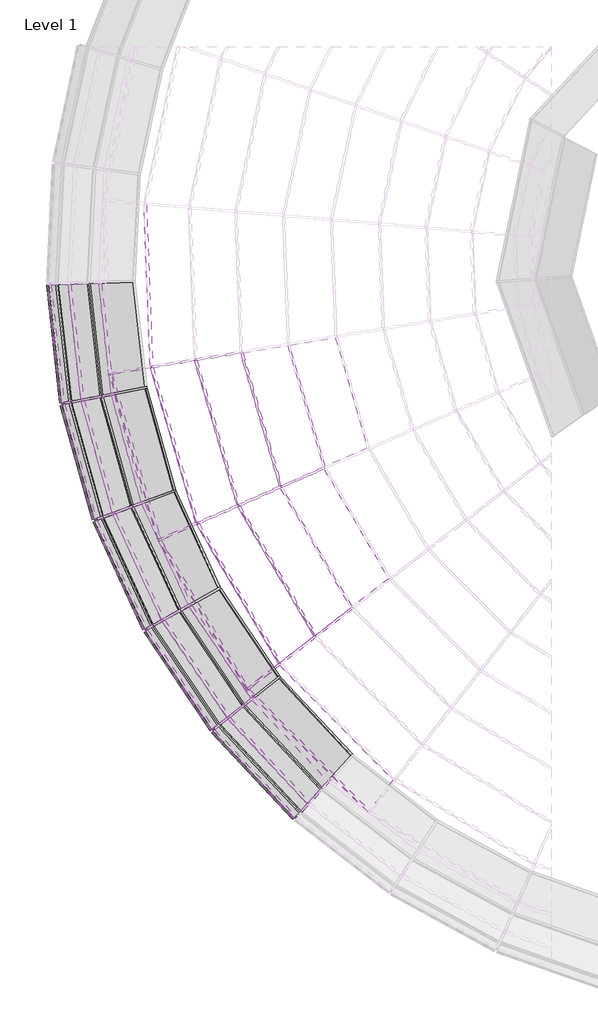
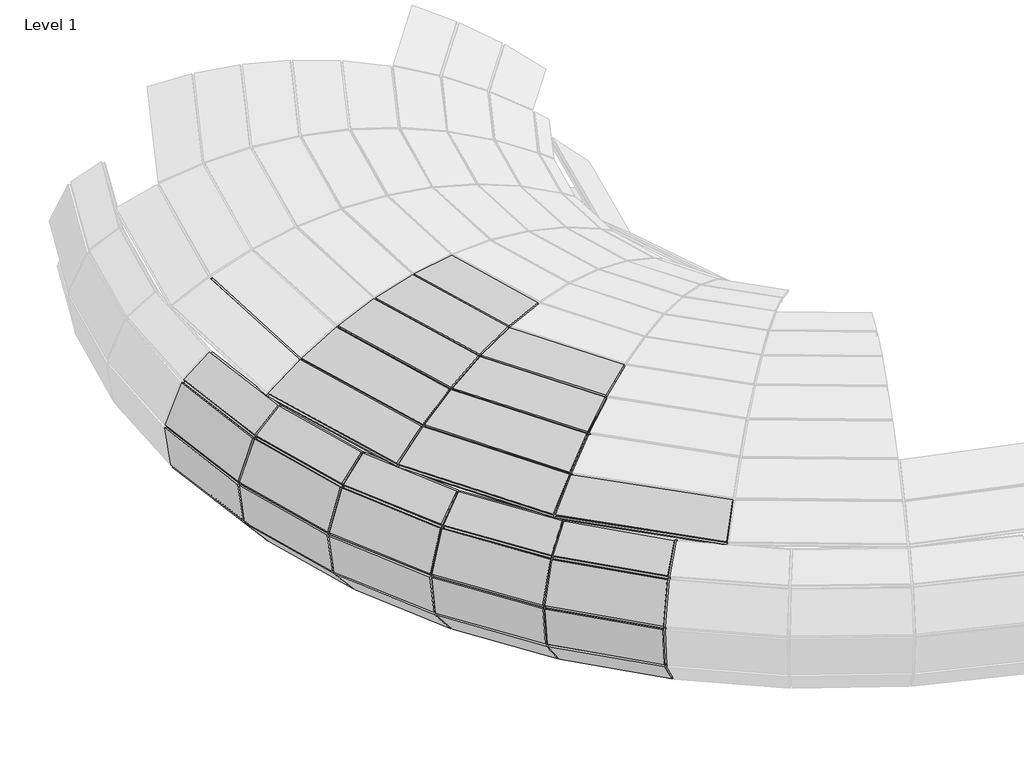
# One storey, part 1 of 23: 71 members, 35 plates.
"""IFC4 building model written with IfcOpenShell, lengths in millimetres."""

from ifc_helpers import new_model, si_unit, origin, place, context, project, spatial, transform, mapped, element, save
from components import member_d6b8231b, member_8c9da58c, member_391bee44, member_01ebdf2a, member_0cd36c09, member_e4cc2466, member_6c4aaba8, member_0ea93e7c, member_12c77cbe, member_af15374c, member_9c203333, member_86c07ba8, member_0e8a41c0, member_f532ae18, member_ff5bcfe9, member_5080b2ef, system_panel_glazed_a6d149b5, system_panel_glazed_185472ef, system_panel_glazed_d90a1b68, system_panel_glazed_7d733e69, system_panel_glazed_1f33159c, system_panel_glazed_020edd5b, system_panel_glazed_973a940c, system_panel_glazed_7e9fb579, system_panel_glazed_aab04364, system_panel_glazed_9094d4f4

model = new_model("IFC4")

# Units and contexts
model_context = context("Model", 3, world=origin())
ifc_project = project(units=[si_unit("LENGTHUNIT", "METRE", prefix="MILLI")], contexts=[model_context])

# Site, building, storey
site = spatial("IfcSite", under=ifc_project)
building = spatial("IfcBuilding", under=site)
storey = spatial("IfcBuildingStorey", under=building, Name="Level 1", Elevation=0.0)

# Members
placement = place(None, origin())
member_shape = member_d6b8231b(model_context)
element("IfcMember", 1, ObjectType="Rectangular Mullion : 1\" Square", at=placement, inside=storey, context=model_context, shape_type="MappedRepresentation", body=[
    mapped(member_shape, transform((-16531.8687259, -6612.3483138, 0.0), x_axis=(0.6225945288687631, -0.7825446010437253, 0.0), y_axis=(-0.21934543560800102, -0.17451180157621, -0.9599131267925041), z_axis=(0.7511748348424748, 0.5976366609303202, -0.28029767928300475))),
])
element("IfcMember", 2, ObjectType="Rectangular Mullion : 1\" Square", at=placement, inside=storey, context=model_context, shape_type="MappedRepresentation", body=[
    mapped(member_shape, transform((-17287.145007, -5489.0713699, 0.0), x_axis=(0.4897912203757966, -0.8718397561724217, 0.0), y_axis=(-0.24437466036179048, -0.1372873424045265, -0.959913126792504), z_axis=(0.8368904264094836, 0.4701570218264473, -0.2802976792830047))),
])
element("IfcMember", 3, ObjectType="Rectangular Mullion : 1\" Square", at=placement, inside=storey, context=model_context, shape_type="MappedRepresentation", body=[
    mapped(member_shape, transform((-17853.5656207, -4259.6971217, 0.0), x_axis=(0.34444419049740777, -0.9388067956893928, 0.0), y_axis=(-0.2631453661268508, -0.0965469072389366, -0.959913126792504), z_axis=(0.9011729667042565, 0.33063649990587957, -0.28029767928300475))),
])
element("IfcMember", 4, ObjectType="Rectangular Mullion : 1\" Square", at=placement, inside=storey, context=model_context, shape_type="MappedRepresentation", body=[
    mapped(member_shape, transform((-18216.6243404, -2955.7102662, 0.0), x_axis=(0.19027582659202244, -0.9817306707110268, 0.0), y_axis=(-0.2751768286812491, -0.05333387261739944, -0.9599131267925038), z_axis=(0.9423761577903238, 0.18264826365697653, -0.2802976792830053))),
])
member_2_shape = member_8c9da58c(model_context)
element("IfcMember", 5, ObjectType="Rectangular Mullion : 1\" Square", at=placement, inside=storey, context=model_context, shape_type="MappedRepresentation", body=[
    mapped(member_2_shape, transform((-18791.0968462, -3067.0526477, 170.8694653), x_axis=(0.19027582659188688, -0.9817306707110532, 0.0), y_axis=(-0.7390514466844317, -0.14324053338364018, -0.658243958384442), z_axis=(0.6462182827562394, 0.12524791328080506, -0.752804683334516))),
])
element("IfcMember", 6, ObjectType="Rectangular Mullion : 1\" Square", at=placement, inside=storey, context=model_context, shape_type="MappedRepresentation", body=[
    mapped(member_2_shape, transform((-18402.9206612, -4461.2531321, 170.8694653), x_axis=(0.34444419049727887, -0.9388067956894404, 0.0), y_axis=(-0.706738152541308, -0.2592991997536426, -0.6582439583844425), z_axis=(0.6179639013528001, 0.22672830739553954, -0.7528046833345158))),
])
element("IfcMember", 7, ObjectType="Rectangular Mullion : 1\" Square", at=placement, inside=storey, context=model_context, shape_type="MappedRepresentation", body=[
    mapped(member_2_shape, transform((-17797.313411, -5775.6790904, 170.8694653), x_axis=(0.48979122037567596, -0.8718397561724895, 0.0), y_axis=(-0.656325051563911, -0.3687171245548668, -0.6582439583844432), z_axis=(0.5738832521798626, 0.3224021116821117, -0.7528046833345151))),
])
element("IfcMember", 8, ObjectType="Rectangular Mullion : 1\" Square", at=placement, inside=storey, context=model_context, shape_type="MappedRepresentation", body=[
    mapped(member_2_shape, transform((-16989.7849053, -6976.6676223, 170.8694653), x_axis=(0.6225945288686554, -0.7825446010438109, 0.0), y_axis=(-0.5891032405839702, -0.46869207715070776, -0.6582439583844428), z_axis=(0.515105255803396, 0.40981908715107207, -0.7528046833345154))),
])
element("IfcMember", 9, ObjectType="Rectangular Mullion : 1\" Square", at=placement, inside=storey, context=model_context, shape_type="MappedRepresentation", body=[
    mapped(member_2_shape, transform((-16001.0162264, -8033.460999, 170.8694653), x_axis=(0.7394529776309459, -0.6732082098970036, 0.0), y_axis=(-0.5067942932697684, -0.556663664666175, -0.658243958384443), z_axis=(0.44313523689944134, 0.486740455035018, -0.7528046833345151))),
])
element("IfcMember", 10, ObjectType="Rectangular Mullion : 1\" Square", at=placement, inside=storey, context=model_context, shape_type="MappedRepresentation", body=[
    mapped(member_2_shape, transform((-19185.0315114, -3143.4037756, 629.7792003), x_axis=(0.19027582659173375, -0.9817306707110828, 0.0), y_axis=(-0.9706664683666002, -0.18813139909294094, -0.1497103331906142), z_axis=(0.1469752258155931, 0.028486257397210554, -0.9887299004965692))),
])
element("IfcMember", 11, ObjectType="Rectangular Mullion : 1\" Square", at=placement, inside=storey, context=model_context, shape_type="MappedRepresentation", body=[
    mapped(member_2_shape, transform((-18779.6314555, -4599.4667083, 629.7792003), x_axis=(0.3444441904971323, -0.9388067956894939, 0.0), y_axis=(-0.9282263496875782, -0.34056227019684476, -0.1497103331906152), z_axis=(0.14054907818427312, 0.05156685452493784, -0.988729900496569))),
])
element("IfcMember", 12, ObjectType="Rectangular Mullion : 1\" Square", at=placement, inside=storey, context=model_context, shape_type="MappedRepresentation", body=[
    mapped(member_2_shape, transform((-18147.1526415, -5972.2154176, 629.7792003), x_axis=(0.4897912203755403, -0.8718397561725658, 0.0), y_axis=(-0.8620140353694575, -0.4842712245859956, -0.1497103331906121), z_axis=(0.13052342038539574, 0.07332680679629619, -0.9887299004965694))),
])
element("IfcMember", 13, ObjectType="Rectangular Mullion : 1\" Square", at=placement, inside=storey, context=model_context, shape_type="MappedRepresentation", body=[
    mapped(member_2_shape, transform((-17303.7930692, -7226.4933378, 629.7792003), x_axis=(0.6225945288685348, -0.7825446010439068, 0.0), y_axis=(-0.7737252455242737, -0.6155778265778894, -0.14971033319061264), z_axis=(0.11715501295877, 0.09320883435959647, -0.9887299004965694))),
])
element("IfcMember", 14, ObjectType="Rectangular Mullion : 1\" Square", at=placement, inside=storey, context=model_context, shape_type="MappedRepresentation", body=[
    mapped(member_2_shape, transform((-16271.1514668, -8330.1779803, 629.7792003), x_axis=(0.7394529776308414, -0.6732082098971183, 0.0), y_axis=(-0.665621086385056, -0.7311192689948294, -0.14971033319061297), z_axis=(0.10078622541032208, 0.11070375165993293, -0.9887299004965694))),
])
member_3_shape = member_391bee44(model_context)
element("IfcMember", 15, ObjectType="Rectangular Mullion : 1\" Square", at=placement, inside=storey, context=model_context, shape_type="MappedRepresentation", body=[
    mapped(member_3_shape, transform((-19274.627609, -3160.7689981, 1232.5089476), x_axis=(0.19027582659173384, -0.9817306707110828, 0.0), y_axis=(-0.8972328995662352, -0.17389874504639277, 0.40587233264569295), z_axis=(-0.39845731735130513, -0.07722769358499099, -0.913929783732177))),
])
element("IfcMember", 16, ObjectType="Rectangular Mullion : 1\" Square", at=placement, inside=storey, context=model_context, shape_type="MappedRepresentation", body=[
    mapped(member_3_shape, transform((-18865.3101735, -4630.9018628, 1232.5089476), x_axis=(0.3444441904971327, -0.9388067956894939, 0.0), y_axis=(-0.8580034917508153, -0.3147978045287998, 0.4058723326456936), z_axis=(-0.3810357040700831, -0.1398003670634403, -0.9139297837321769))),
])
element("IfcMember", 17, ObjectType="Rectangular Mullion : 1\" Square", at=placement, inside=storey, context=model_context, shape_type="MappedRepresentation", body=[
    mapped(member_3_shape, transform((-18226.7197186, -6016.9154391, 1232.5089476), x_axis=(0.4897912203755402, -0.871839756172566, 0.0), y_axis=(-0.7968003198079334, -0.4476347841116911, 0.4058723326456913), z_axis=(-0.35385563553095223, -0.19879270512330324, -0.9139297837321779))),
])
element("IfcMember", 18, ObjectType="Rectangular Mullion : 1\" Square", at=placement, inside=storey, context=model_context, shape_type="MappedRepresentation", body=[
    mapped(member_3_shape, transform((-17375.2107651, -7283.3134432, 1232.5089476), x_axis=(0.6225945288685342, -0.7825446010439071, 0.0), y_axis=(-0.7151908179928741, -0.569007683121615, 0.4058723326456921), z_axis=(-0.3176132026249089, -0.25269389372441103, -0.9139297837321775))),
])
element("IfcMember", 19, ObjectType="Rectangular Mullion : 1\" Square", at=placement, inside=storey, context=model_context, shape_type="MappedRepresentation", body=[
    mapped(member_3_shape, transform((-16332.5907498, -8397.6629874, 1232.5089476), x_axis=(0.7394529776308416, -0.6732082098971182, 0.0), y_axis=(-0.6152650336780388, -0.6758080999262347, 0.405872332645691), z_axis=(-0.2732365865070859, -0.3001235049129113, -0.9139297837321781))),
])
member_4_shape = member_01ebdf2a(model_context)
element("IfcMember", 20, ObjectType="Rectangular Mullion : 1\" Square", at=placement, inside=storey, context=model_context, shape_type="MappedRepresentation", body=[
    mapped(member_4_shape, transform((-19031.7280284, -3113.6909961, 1789.6405438), x_axis=(0.190275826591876, -0.9817306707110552, 0.0), y_axis=(-0.5849740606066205, -0.11337775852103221, 0.8030883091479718), z_axis=(-0.7884164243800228, -0.1528082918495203, -0.5958600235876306))),
])
element("IfcMember", 21, ObjectType="Rectangular Mullion : 1\" Square", at=placement, inside=storey, context=model_context, shape_type="MappedRepresentation", body=[
    mapped(member_4_shape, transform((-18633.0308083, -4545.679559, 1789.6405438), x_axis=(0.3444441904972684, -0.9388067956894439, 0.0), y_axis=(-0.5593974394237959, -0.2052405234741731, 0.8030883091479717), z_axis=(-0.7539447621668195, -0.2766191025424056, -0.5958600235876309))),
])
element("IfcMember", 22, ObjectType="Rectangular Mullion : 1\" Square", at=placement, inside=storey, context=model_context, shape_type="MappedRepresentation", body=[
    mapped(member_4_shape, transform((-18011.0093232, -5895.731406, 1789.6405438), x_axis=(0.4897912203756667, -0.8718397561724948, 0.0), y_axis=(-0.519494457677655, -0.29184700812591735, 0.8030883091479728), z_axis=(-0.7001643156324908, -0.39334560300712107, -0.5958600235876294))),
])
element("IfcMember", 23, ObjectType="Rectangular Mullion : 1\" Square", at=placement, inside=storey, context=model_context, shape_type="MappedRepresentation", body=[
    mapped(member_4_shape, transform((-17181.5937568, -7129.2712456, 1789.6405438), x_axis=(0.6225945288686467, -0.7825446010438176, 0.0), y_axis=(-0.4662870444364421, -0.37097919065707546, 0.803088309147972), z_axis=(-0.6284524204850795, -0.4999983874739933, -0.5958600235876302))),
])
element("IfcMember", 24, ObjectType="Rectangular Mullion : 1\" Square", at=placement, inside=storey, context=model_context, shape_type="MappedRepresentation", body=[
    mapped(member_4_shape, transform((-16166.0257267, -8214.7076988, 1789.6405438), x_axis=(0.7394529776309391, -0.6732082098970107, 0.0), y_axis=(-0.40113785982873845, -0.4406104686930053, 0.8030883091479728), z_axis=(-0.5406456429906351, -0.5938460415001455, -0.5958600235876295))),
])
member_5_shape = member_0cd36c09(model_context)
element("IfcMember", 25, ObjectType="Rectangular Mullion : 1\" Square", at=placement, inside=storey, context=model_context, shape_type="MappedRepresentation", body=[
    mapped(member_5_shape, transform((-18158.3942968, -2694.0572787, 2378.3537392), x_axis=(0.1613117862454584, -0.9869034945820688, 0.0), y_axis=(-0.36749709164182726, -0.06006829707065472, 0.928082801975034), z_axis=(-0.9159281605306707, -0.1497106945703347, -0.37237388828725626))),
])
element("IfcMember", 26, ObjectType="Rectangular Mullion : 1\" Square", at=placement, inside=storey, context=model_context, shape_type="MappedRepresentation", body=[
    mapped(member_5_shape, transform((-17600.0444901, -2602.7936393, 2605.3528615), x_axis=(0.16131178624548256, -0.9869034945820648, 0.0), y_axis=(-0.25583094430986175, -0.04181619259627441, 0.9658167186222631), z_axis=(-0.9531678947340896, -0.15579762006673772, -0.2592258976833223))),
])
element("IfcMember", 27, ObjectType="Rectangular Mullion : 1\" Square", at=placement, inside=storey, context=model_context, shape_type="MappedRepresentation", body=[
    mapped(member_5_shape, transform((-17576.8180418, -4673.3113123, 2378.3537392), x_axis=(0.3982102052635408, -0.9172941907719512, 0.0), y_axis=(-0.34157640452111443, -0.1482830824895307, 0.9280828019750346), z_axis=(-0.8513249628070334, -0.36957204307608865, -0.3723738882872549))),
])
element("IfcMember", 28, ObjectType="Rectangular Mullion : 1\" Square", at=placement, inside=storey, context=model_context, shape_type="MappedRepresentation", body=[
    mapped(member_5_shape, transform((-17057.8503445, -4448.0201948, 2605.3528615), x_axis=(0.3982102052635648, -0.9172941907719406, 0.0), y_axis=(-0.23778641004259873, -0.10322639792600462, 0.9658167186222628), z_axis=(-0.8859380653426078, -0.3845980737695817, -0.2592258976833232))),
])
element("IfcMember", 29, ObjectType="Rectangular Mullion : 1\" Square", at=placement, inside=storey, context=model_context, shape_type="MappedRepresentation", body=[
    mapped(member_5_shape, transform((-16517.7824998, -4213.5692091, 2763.3769688), x_axis=(0.39821020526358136, -0.9172941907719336, 0.0), y_axis=(-0.13061359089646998, -0.056701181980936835, 0.9898106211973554), z_axis=(-0.9079475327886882, -0.39415269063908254, -0.14239007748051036))),
])
element("IfcMember", 30, ObjectType="Rectangular Mullion : 1\" Square", at=placement, inside=storey, context=model_context, shape_type="MappedRepresentation", body=[
    mapped(member_5_shape, transform((-16528.003984, -6449.7308973, 2378.3537392), x_axis=(0.610831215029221, -0.7917608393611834, 0.0), y_axis=(-0.2948310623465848, -0.22745759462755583, 0.9280828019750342), z_axis=(-0.7348196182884, -0.5669019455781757, -0.3723738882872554))),
])
element("IfcMember", 31, ObjectType="Rectangular Mullion : 1\" Square", at=placement, inside=storey, context=model_context, shape_type="MappedRepresentation", body=[
    mapped(member_5_shape, transform((-16080.0579447, -6104.1474713, 2605.3528615), x_axis=(0.6108312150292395, -0.791760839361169, 0.0), y_axis=(-0.20524491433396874, -0.15834327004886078, 0.965816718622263), z_axis=(-0.7646958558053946, -0.5899509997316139, -0.25922589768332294))),
])
member_6_shape = member_e4cc2466(model_context)
element("IfcMember", 32, ObjectType="Rectangular Mullion : 1\" Square", at=placement, inside=storey, context=model_context, shape_type="MappedRepresentation", body=[
    mapped(member_6_shape, transform((-16951.3648469, -6776.3472408, 2085.6089632), x_axis=(0.6108312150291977, -0.7917608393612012, 0.0), y_axis=(-0.3802228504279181, -0.2933360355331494, 0.8771456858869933), z_axis=(-0.6944896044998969, -0.5357879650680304, -0.48022437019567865))),
])
element("IfcMember", 33, ObjectType="Rectangular Mullion : 1\" Square", at=placement, inside=storey, context=model_context, shape_type="MappedRepresentation", body=[
    mapped(member_6_shape, transform((-18067.3025932, -4886.2374988, 2085.6089632), x_axis=(0.39821020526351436, -0.9172941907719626, 0.0), y_axis=(-0.44050702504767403, -0.19123024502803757, 0.8771456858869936), z_axis=(-0.8046006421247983, -0.3492883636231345, -0.48022437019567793))),
])
element("IfcMember", 34, ObjectType="Rectangular Mullion : 1\" Square", at=placement, inside=storey, context=model_context, shape_type="MappedRepresentation", body=[
    mapped(member_6_shape, transform((-18686.0995005, -2780.3119829, 2085.6089632), x_axis=(0.1613117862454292, -0.9869034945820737, 0.0), y_axis=(-0.4739351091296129, -0.07746585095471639, 0.8771456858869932), z_axis=(-0.8656581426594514, -0.14149393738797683, -0.48022437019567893))),
])
member_7_shape = member_6c4aaba8(model_context)
element("IfcMember", 35, ObjectType="Rectangular Mullion : 1\" Square", at=placement, inside=storey, context=model_context, shape_type="MappedRepresentation", body=[
    mapped(member_7_shape, transform((-18158.8799169, -2681.3665666, 2378.3537392), x_axis=(0.904906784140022, 0.03462697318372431, 0.42419887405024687), y_axis=(-0.4238886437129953, -0.016220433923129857, 0.9055690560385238), z_axis=(0.03823780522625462, -0.9992686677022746, 0.0))),
])
element("IfcMember", 36, ObjectType="Rectangular Mullion : 1\" Square", at=placement, inside=storey, context=model_context, shape_type="MappedRepresentation", body=[
    mapped(member_7_shape, transform((-17580.3983963, -4661.1264421, 2378.3537392), x_axis=(0.8688379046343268, 0.25529592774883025, 0.42419887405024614), y_axis=(-0.4069927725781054, -0.11958916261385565, 0.9055690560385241), z_axis=(0.28191768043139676, -0.9594385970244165, 0.0))),
])
element("IfcMember", 37, ObjectType="Rectangular Mullion : 1\" Square", at=placement, inside=storey, context=model_context, shape_type="MappedRepresentation", body=[
    mapped(member_7_shape, transform((-16534.4607919, -6438.7947357, 2378.3537392), x_axis=(0.779799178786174, 0.4604004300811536, 0.42419887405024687), y_axis=(-0.365284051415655, -0.21566698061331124, 0.9055690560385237), z_axis=(0.5084100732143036, -0.8611150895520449, 0.0))),
])
member_8_shape = member_0ea93e7c(model_context)
element("IfcMember", 38, ObjectType="Rectangular Mullion : 1\" Square", at=placement, inside=storey, context=model_context, shape_type="MappedRepresentation", body=[
    mapped(member_8_shape, transform((-16521.3628544, -4201.3843389, 2763.3769688), x_axis=(0.9401635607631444, 0.27625397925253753, 0.19943976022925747), y_axis=(-0.19135020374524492, -0.05622559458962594, 0.9799100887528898), z_axis=(0.2819176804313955, -0.959438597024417, 0.0))),
])
member_9_shape = member_12c77cbe(model_context)
element("IfcMember", 39, ObjectType="Rectangular Mullion : 1\" Square", at=placement, inside=storey, context=model_context, shape_type="MappedRepresentation", body=[
    mapped(member_9_shape, transform((-17061.430699, -4435.8353247, 2605.3528615), x_axis=(0.9109237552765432, 0.26766226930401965, 0.31396627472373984), y_axis=(-0.30123136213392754, -0.08851264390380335, 0.9494341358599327), z_axis=(0.2819176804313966, -0.9594385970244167, 0.0))),
])
element("IfcMember", 40, ObjectType="Rectangular Mullion : 1\" Square", at=placement, inside=storey, context=model_context, shape_type="MappedRepresentation", body=[
    mapped(member_9_shape, transform((-16086.5147526, -6093.2113097, 2605.3528615), x_axis=(0.8175720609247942, 0.48270187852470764, 0.3139662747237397), y_axis=(-0.2703610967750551, -0.1596236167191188, 0.9494341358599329), z_axis=(0.5084100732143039, -0.8611150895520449, 0.0))),
])
member_10_shape = member_af15374c(model_context)
element("IfcMember", 41, ObjectType="Rectangular Mullion : 1\" Square", at=placement, inside=storey, context=model_context, shape_type="MappedRepresentation", body=[
    mapped(member_10_shape, transform((-18682.519146, -2792.4968531, 2085.6089632), x_axis=(-0.8400695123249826, -0.2468427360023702, -0.4830650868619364), y_axis=(-0.46347128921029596, -0.13618458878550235, 0.8755844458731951), z_axis=(-0.28191768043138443, 0.9594385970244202, 0.0))),
])
element("IfcMember", 42, ObjectType="Rectangular Mullion : 1\" Square", at=placement, inside=storey, context=model_context, shape_type="MappedRepresentation", body=[
    mapped(member_10_shape, transform((-18060.8457853, -4897.1736604, 2085.6089632), x_axis=(-0.7539789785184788, -0.4451559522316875, -0.4830650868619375), y_axis=(-0.4159746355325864, -0.24559515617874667, 0.8755844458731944), z_axis=(-0.5084100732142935, 0.8611150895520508, 0.0))),
])
element("IfcMember", 43, ObjectType="Rectangular Mullion : 1\" Square", at=placement, inside=storey, context=model_context, shape_type="MappedRepresentation", body=[
    mapped(member_10_shape, transform((-16942.4252334, -6785.3679564, 2085.6089632), x_axis=(-0.6219211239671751, -0.616329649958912, -0.4830650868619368), y_axis=(-0.34311754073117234, -0.3400326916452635, 0.8755844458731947), z_axis=(-0.7039065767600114, 0.7102925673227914, 0.0))),
])
member_11_shape = member_9c203333(model_context)
element("IfcMember", 44, ObjectType="Rectangular Mullion : 1\" Square", at=placement, inside=storey, context=model_context, shape_type="MappedRepresentation", body=[
    mapped(member_11_shape, transform((-18213.2179459, -2967.9449086, 0.0), x_axis=(0.9245056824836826, 0.2574027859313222, -0.28112817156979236), y_axis=(-0.2708269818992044, -0.07540420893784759, -0.9596702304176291), z_axis=(-0.26822003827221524, 0.9633576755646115, 0.0))),
])
element("IfcMember", 45, ObjectType="Rectangular Mullion : 1\" Square", at=placement, inside=storey, context=model_context, shape_type="MappedRepresentation", body=[
    mapped(member_11_shape, transform((-17848.2511854, -4271.2317122, 0.0), x_axis=(0.87160654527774, 0.4015830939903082, -0.2811281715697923), y_axis=(-0.2553305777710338, -0.11764074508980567, -0.9596702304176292), z_axis=(-0.41845946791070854, 0.9082354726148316, 0.0))),
])
element("IfcMember", 46, ObjectType="Rectangular Mullion : 1\" Square", at=placement, inside=storey, context=model_context, shape_type="MappedRepresentation", body=[
    mapped(member_11_shape, transform((-17280.0586356, -5499.6105036, 0.0), x_axis=(0.7963852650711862, 0.5354787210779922, -0.28112817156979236), y_axis=(-0.23329506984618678, -0.15686446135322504, -0.9596702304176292), z_axis=(-0.5579820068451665, 0.8298530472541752, 0.0))),
])
element("IfcMember", 47, ObjectType="Rectangular Mullion : 1\" Square", at=placement, inside=storey, context=model_context, shape_type="MappedRepresentation", body=[
    mapped(member_11_shape, transform((-16523.1919026, -6621.6220798, 0.0), x_axis=(0.7007682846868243, 0.6556605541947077, -0.281128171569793), y_axis=(-0.2052847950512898, -0.19207082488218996, -0.959670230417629), z_axis=(-0.6832144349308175, 0.73021780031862, 0.0))),
])
member_12_shape = member_86c07ba8(model_context)
element("IfcMember", 48, ObjectType="Rectangular Mullion : 1\" Square", at=placement, inside=storey, context=model_context, shape_type="MappedRepresentation", body=[
    mapped(member_12_shape, transform((-18792.507961, -3054.4312866, 170.8694653), x_axis=(-0.838814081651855, -0.09378251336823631, 0.5362795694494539), y_axis=(-0.5329589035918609, -0.05958677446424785, -0.8440404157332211), z_axis=(0.11111140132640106, -0.9938079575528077, 0.0))),
])
element("IfcMember", 49, ObjectType="Rectangular Mullion : 1\" Square", at=placement, inside=storey, context=model_context, shape_type="MappedRepresentation", body=[
    mapped(member_12_shape, transform((-18406.3270557, -4449.0184896, 170.8694653), x_axis=(-0.8131128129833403, -0.22638855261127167, 0.536279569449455), y_axis=(-0.5166290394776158, -0.1438409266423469, -0.8440404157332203), z_axis=(0.2682200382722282, -0.9633576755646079, 0.0))),
])
element("IfcMember", 50, ObjectType="Rectangular Mullion : 1\" Square", at=placement, inside=storey, context=model_context, shape_type="MappedRepresentation", body=[
    mapped(member_12_shape, transform((-17802.6278462, -5764.1444999, 170.8694653), x_axis=(-0.7665874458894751, -0.35319670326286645, 0.5362795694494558), y_axis=(-0.48706812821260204, -0.22441126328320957, -0.8440404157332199), z_axis=(0.4184594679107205, -0.9082354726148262, 0.0))),
])
element("IfcMember", 51, ObjectType="Rectangular Mullion : 1\" Square", at=placement, inside=storey, context=model_context, shape_type="MappedRepresentation", body=[
    mapped(member_12_shape, transform((-16996.8712767, -6966.1284886, 170.8694653), x_axis=(-0.7004295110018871, -0.4709593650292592, 0.5362795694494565), y_axis=(-0.44503323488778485, -0.2992343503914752, -0.8440404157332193), z_axis=(0.557982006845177, -0.8298530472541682, 0.0))),
])
element("IfcMember", 52, ObjectType="Rectangular Mullion : 1\" Square", at=placement, inside=storey, context=model_context, shape_type="MappedRepresentation", body=[
    mapped(member_12_shape, transform((-16009.6930497, -8024.1872329, 170.8694653), x_axis=(-0.6163333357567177, -0.5766605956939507, 0.5362795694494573), y_axis=(-0.39160088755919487, -0.3663939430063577, -0.8440404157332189), z_axis=(0.6832144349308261, -0.7302178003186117, 0.0))),
])
member_13_shape = member_0e8a41c0(model_context)
element("IfcMember", 53, ObjectType="Rectangular Mullion : 1\" Square", at=placement, inside=storey, context=model_context, shape_type="MappedRepresentation", body=[
    mapped(member_13_shape, transform((-19186.4426262, -3130.7824146, 629.7792003), x_axis=(-0.4196634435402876, -0.04691992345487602, 0.9064662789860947), y_axis=(-0.9008534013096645, -0.10071873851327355, -0.42227820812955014), z_axis=(0.11111140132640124, -0.9938079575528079, 0.0))),
])
element("IfcMember", 54, ObjectType="Rectangular Mullion : 1\" Square", at=placement, inside=storey, context=model_context, shape_type="MappedRepresentation", body=[
    mapped(member_13_shape, transform((-18783.0378499, -4587.2320658, 629.7792003), x_axis=(-0.40680495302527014, -0.11326347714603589, 0.906466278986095), y_axis=(-0.8732512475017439, -0.24313242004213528, -0.42227820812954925), z_axis=(0.2682200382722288, -0.9633576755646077, 0.0))),
])
element("IfcMember", 55, ObjectType="Rectangular Mullion : 1\" Square", at=placement, inside=storey, context=model_context, shape_type="MappedRepresentation", body=[
    mapped(member_13_shape, transform((-18152.4670768, -5960.6808271, 629.7792003), x_axis=(-0.383528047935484, -0.17670631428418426, 0.9064662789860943), y_axis=(-0.8232848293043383, -0.37931939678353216, -0.4222782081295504), z_axis=(0.4184594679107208, -0.908235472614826, 0.0))),
])
element("IfcMember", 56, ObjectType="Rectangular Mullion : 1\" Square", at=placement, inside=storey, context=model_context, shape_type="MappedRepresentation", body=[
    mapped(member_13_shape, transform((-17310.8794407, -7215.9542041, 629.7792003), x_axis=(-0.35042885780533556, -0.23562364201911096, 0.9064662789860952), y_axis=(-0.7522338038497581, -0.505791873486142, -0.4222782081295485), z_axis=(0.5579820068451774, -0.829853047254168, 0.0))),
])
element("IfcMember", 57, ObjectType="Rectangular Mullion : 1\" Square", at=placement, inside=storey, context=model_context, shape_type="MappedRepresentation", body=[
    mapped(member_13_shape, transform((-16279.8282901, -8320.9042143, 629.7792003), x_axis=(-0.3083550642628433, -0.28850656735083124, 0.9064662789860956), y_axis=(-0.6619178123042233, -0.6193108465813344, -0.4222782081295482), z_axis=(0.6832144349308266, -0.7302178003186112, 0.0))),
])
member_14_shape = member_f532ae18(model_context)
element("IfcMember", 58, ObjectType="Rectangular Mullion : 1\" Square", at=placement, inside=storey, context=model_context, shape_type="MappedRepresentation", body=[
    mapped(member_14_shape, transform((-19276.0387238, -3148.1476371, 1232.5089476), x_axis=(0.13313096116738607, 0.014884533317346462, 0.9909866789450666), y_axis=(-0.984850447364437, -0.11010991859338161, 0.133960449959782), z_axis=(0.1111114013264, -0.993807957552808, 0.0))),
])
element("IfcMember", 59, ObjectType="Rectangular Mullion : 1\" Square", at=placement, inside=storey, context=model_context, shape_type="MappedRepresentation", body=[
    mapped(member_14_shape, transform((-18868.716568, -4618.6672203, 1232.5089476), x_axis=(0.12905182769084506, 0.03593087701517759, 0.9909866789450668), y_axis=(-0.9546746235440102, -0.26580248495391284, 0.13396044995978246), z_axis=(0.26822003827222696, -0.9633576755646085, 0.0))),
])
element("IfcMember", 60, ObjectType="Rectangular Mullion : 1\" Square", at=placement, inside=storey, context=model_context, shape_type="MappedRepresentation", body=[
    mapped(member_14_shape, transform((-18232.0341538, -6005.3808486, 1232.5089476), x_axis=(0.12166763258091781, 0.05605701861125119, 0.9909866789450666), y_axis=(-0.90004925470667, -0.41468775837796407, 0.13396044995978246), z_axis=(0.41845946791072, -0.9082354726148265, 0.0))),
])
element("IfcMember", 61, ObjectType="Rectangular Mullion : 1\" Square", at=placement, inside=storey, context=model_context, shape_type="MappedRepresentation", body=[
    mapped(member_14_shape, transform((-17382.2971366, -7272.7743095, 1232.5089476), x_axis=(0.1111674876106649, 0.07474752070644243, 0.9909866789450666), y_axis=(-0.8223733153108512, -0.5529527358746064, 0.13396044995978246), z_axis=(0.5579820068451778, -0.8298530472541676, 0.0))),
])
element("IfcMember", 62, ObjectType="Rectangular Mullion : 1\" Square", at=placement, inside=storey, context=model_context, shape_type="MappedRepresentation", body=[
    mapped(member_14_shape, transform((-16341.2675732, -8388.3892213, 1232.5089476), x_axis=(0.09782030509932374, 0.09152371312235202, 0.9909866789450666), y_axis=(-0.7236361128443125, -0.6770564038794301, 0.13396044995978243), z_axis=(0.6832144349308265, -0.7302178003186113, 0.0))),
])
member_15_shape = member_ff5bcfe9(model_context)
element("IfcMember", 63, ObjectType="Rectangular Mullion : 1\" Square", at=placement, inside=storey, context=model_context, shape_type="MappedRepresentation", body=[
    mapped(member_15_shape, transform((-19033.1391432, -3101.0696351, 1789.6405438), x_axis=(0.6433903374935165, 0.07193341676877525, 0.7621512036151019), y_axis=(-0.7574319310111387, -0.08468368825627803, 0.647399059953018), z_axis=(0.11111140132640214, -0.9938079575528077, 0.0))),
])
element("IfcMember", 64, ObjectType="Rectangular Mullion : 1\" Square", at=placement, inside=storey, context=model_context, shape_type="MappedRepresentation", body=[
    mapped(member_15_shape, transform((-18636.4372028, -4533.4449166, 1789.6405438), x_axis=(0.6236768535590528, 0.17364540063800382, 0.7621512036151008), y_axis=(-0.7342242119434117, -0.20442422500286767, 0.6473990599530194), z_axis=(0.26822003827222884, -0.9633576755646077, 0.0))),
])
element("IfcMember", 65, ObjectType="Rectangular Mullion : 1\" Square", at=placement, inside=storey, context=model_context, shape_type="MappedRepresentation", body=[
    mapped(member_15_shape, transform((-18016.3237584, -5884.1968155, 1789.6405438), x_axis=(0.5879907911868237, 0.27091026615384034, 0.762151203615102), y_axis=(-0.6922127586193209, -0.31892938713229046, 0.647399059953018), z_axis=(0.41845946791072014, -0.9082354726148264, 0.0))),
])
element("IfcMember", 66, ObjectType="Rectangular Mullion : 1\" Square", at=placement, inside=storey, context=model_context, shape_type="MappedRepresentation", body=[
    mapped(member_15_shape, transform((-17188.6801283, -7118.7321119, 1789.6405438), x_axis=(0.537246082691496, 0.36123702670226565, 0.7621512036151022), y_axis=(-0.6324734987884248, -0.4252666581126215, 0.6473990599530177), z_axis=(0.5579820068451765, -0.8298530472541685, 0.0))),
])
element("IfcMember", 67, ObjectType="Rectangular Mullion : 1\" Square", at=placement, inside=storey, context=model_context, shape_type="MappedRepresentation", body=[
    mapped(member_15_shape, transform((-16174.70255, -8205.4339327, 1789.6405438), x_axis=(0.4727423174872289, 0.4423123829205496, 0.7621512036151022), y_axis=(-0.5565363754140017, -0.520712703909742, 0.6473990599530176), z_axis=(0.6832144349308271, -0.7302178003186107, 0.0))),
])
member_16_shape = member_5080b2ef(model_context)
element("IfcMember", 68, ObjectType="Rectangular Mullion : 1\" Square", at=placement, inside=storey, context=model_context, shape_type="MappedRepresentation", body=[
    mapped(member_16_shape, transform((-18641.5264259, -3025.1685395, 2085.6089632), x_axis=(0.7972041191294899, 0.08913036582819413, 0.5970941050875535), y_axis=(-0.5933968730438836, -0.06634396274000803, 0.8021711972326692), z_axis=(0.11111140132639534, -0.9938079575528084, 0.0))),
])
element("IfcMember", 69, ObjectType="Rectangular Mullion : 1\" Square", at=placement, inside=storey, context=model_context, shape_type="MappedRepresentation", body=[
    mapped(member_16_shape, transform((-18261.9468347, -4396.0460052, 2085.6089632), x_axis=(0.7727777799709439, 0.21515838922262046, 0.5970941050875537), y_axis=(-0.5752151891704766, -0.16015260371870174, 0.8021711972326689), z_axis=(0.26822003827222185, -0.9633576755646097, 0.0))),
])
element("IfcMember", 70, ObjectType="Rectangular Mullion : 1\" Square", at=placement, inside=storey, context=model_context, shape_type="MappedRepresentation", body=[
    mapped(member_16_shape, transform((-17668.5465664, -5688.8189217, 2085.6089632), x_axis=(0.7285603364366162, 0.3356761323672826, 0.5970941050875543), y_axis=(-0.5423020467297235, -0.24985968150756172, 0.8021711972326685), z_axis=(0.41845946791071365, -0.9082354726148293, 0.0))),
])
element("IfcMember", 71, ObjectType="Rectangular Mullion : 1\" Square", at=placement, inside=storey, context=model_context, shape_type="MappedRepresentation", body=[
    mapped(member_16_shape, transform((-16876.5228057, -6870.3789306, 2085.6089632), x_axis=(0.6656842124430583, 0.4475970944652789, 0.5970941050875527), y_axis=(-0.4955003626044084, -0.3331677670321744, 0.8021711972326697), z_axis=(0.5579820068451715, -0.829853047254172, 0.0))),
])

# Plates
system_panel_glazed_shape = system_panel_glazed_a6d149b5(model_context)
element("IfcPlate", 72, ObjectType="System Panel : Glazed", at=placement, inside=storey, context=model_context, shape_type="MappedRepresentation", body=[
    mapped(system_panel_glazed_shape, transform((-18355.3632813, -3827.0049354, 2097.8788164), x_axis=(0.28191768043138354, -0.9594385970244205, 0.0), y_axis=(0.46347128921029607, 0.1361845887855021, -0.8755844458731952), z_axis=(0.8400695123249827, 0.2468427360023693, 0.4830650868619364))),
])
element("IfcPlate", 73, ObjectType="System Panel : Glazed", at=placement, inside=storey, context=model_context, shape_type="MappedRepresentation", body=[
    mapped(system_panel_glazed_shape, transform((-17490.182654, -5819.9854086, 2097.8788164), x_axis=(0.5084100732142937, -0.8611150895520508, 0.0), y_axis=(0.4159746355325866, 0.2455951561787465, -0.8755844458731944), z_axis=(0.7539789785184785, 0.44515595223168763, 0.48306508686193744))),
])
element("IfcPlate", 74, ObjectType="System Panel : Glazed", at=placement, inside=storey, context=model_context, shape_type="MappedRepresentation", body=[
    mapped(system_panel_glazed_shape, transform((-16163.0460644, -7540.2229379, 2097.8788164), x_axis=(0.7039065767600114, -0.7102925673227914, 0.0), y_axis=(0.3431175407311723, 0.3400326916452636, -0.8755844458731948), z_axis=(0.6219211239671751, 0.616329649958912, 0.4830650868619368))),
])
system_panel_glazed_2_shape = system_panel_glazed_185472ef(model_context)
element("IfcPlate", 75, ObjectType="System Panel : Glazed", at=placement, inside=storey, context=model_context, shape_type="MappedRepresentation", body=[
    mapped(system_panel_glazed_2_shape, transform((-17856.3097162, -3680.36499, 2383.1142391), x_axis=(0.28191768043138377, -0.9594385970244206, 0.0), y_axis=(0.35963837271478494, 0.10567473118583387, -0.9270885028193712), z_axis=(0.8894844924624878, 0.2613626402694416, 0.37484251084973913))),
])
element("IfcPlate", 76, ObjectType="System Panel : Glazed", at=placement, inside=storey, context=model_context, shape_type="MappedRepresentation", body=[
    mapped(system_panel_glazed_2_shape, transform((-17042.2722232, -5555.5350724, 2383.1142391), x_axis=(0.5084100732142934, -0.861115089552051, 0.0), y_axis=(0.32278254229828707, 0.19057370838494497, -0.9270885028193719), z_axis=(0.7983298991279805, 0.4713411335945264, 0.3748425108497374))),
])
system_panel_glazed_3_shape = system_panel_glazed_d90a1b68(model_context)
element("IfcPlate", 77, ObjectType="System Panel : Glazed", at=placement, inside=storey, context=model_context, shape_type="MappedRepresentation", body=[
    mapped(system_panel_glazed_3_shape, transform((-17317.1851811, -3521.9507476, 2608.668686), x_axis=(0.2819176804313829, -0.9594385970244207, 0.0), y_axis=(0.25049842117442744, 0.07360547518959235, -0.9653148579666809), z_axis=(0.9261603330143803, 0.2721393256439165, 0.2610885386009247))),
])
element("IfcPlate", 78, ObjectType="System Panel : Glazed", at=placement, inside=storey, context=model_context, shape_type="MappedRepresentation", body=[
    mapped(system_panel_glazed_3_shape, transform((-16558.3973053, -5269.8509804, 2608.668686), x_axis=(0.5084100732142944, -0.8611150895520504, 0.0), y_axis=(0.22482728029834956, 0.13274004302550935, -0.9653148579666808), z_axis=(0.8312471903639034, 0.49077579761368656, 0.26108853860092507))),
])
system_panel_glazed_4_shape = system_panel_glazed_7d733e69(model_context)
element("IfcPlate", 79, ObjectType="System Panel : Glazed", at=placement, inside=storey, context=model_context, shape_type="MappedRepresentation", body=[
    mapped(system_panel_glazed_4_shape, transform((-16756.3290986, -3357.1509926, 2765.1989775), x_axis=(0.28191768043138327, -0.9594385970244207, 0.0), y_axis=(0.13764610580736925, 0.040445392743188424, -0.9896553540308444), z_axis=(0.9495135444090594, 0.279001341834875, 0.14346525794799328))),
])
element("IfcPlate", 80, ObjectType="System Panel : Glazed", at=placement, inside=storey, context=model_context, shape_type="MappedRepresentation", body=[
    mapped(system_panel_glazed_4_shape, transform((-16055.0178945, -4972.6512609, 2765.1989775), x_axis=(0.5084100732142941, -0.8611150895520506, 0.0), y_axis=(0.12354009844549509, 0.07293918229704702, -0.9896553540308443), z_axis=(0.8522071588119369, 0.5031507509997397, 0.14346525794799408))),
])
system_panel_glazed_5_shape = system_panel_glazed_1f33159c(model_context)
element("IfcPlate", 81, ObjectType="System Panel : Glazed", at=placement, inside=storey, context=model_context, shape_type="MappedRepresentation", body=[
    mapped(system_panel_glazed_5_shape, transform((-16181.7209313, -3188.3103787, 2850.4790751), x_axis=(0.281917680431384, -0.9594385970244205, 0.0), y_axis=(0.022748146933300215, 0.00668422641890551, -0.9997188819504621), z_axis=(0.9591688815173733, 0.2818384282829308, 0.02370985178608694))),
])
system_panel_glazed_6_shape = system_panel_glazed_020edd5b(model_context)
element("IfcPlate", 82, ObjectType="System Panel : Glazed", at=placement, inside=storey, context=model_context, shape_type="MappedRepresentation", body=[
    mapped(system_panel_glazed_6_shape, transform((-18316.048413, -2285.81672, 7.1406556), x_axis=(0.11111140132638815, -0.9938079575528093, 0.0), y_axis=(0.2793874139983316, 0.031236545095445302, 0.959670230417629), z_axis=(-0.9537279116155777, -0.10663030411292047, 0.281128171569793))),
])
element("IfcPlate", 83, ObjectType="System Panel : Glazed", at=placement, inside=storey, context=model_context, shape_type="MappedRepresentation", body=[
    mapped(system_panel_glazed_6_shape, transform((-18058.5774249, -3614.2417247, 7.1406556), x_axis=(0.2682200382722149, -0.9633576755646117, 0.0), y_axis=(0.27082698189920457, 0.07540420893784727, 0.9596702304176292), z_axis=(-0.9245056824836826, -0.2574027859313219, 0.28112817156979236))),
])
element("IfcPlate", 84, ObjectType="System Panel : Glazed", at=placement, inside=storey, context=model_context, shape_type="MappedRepresentation", body=[
    mapped(system_panel_glazed_6_shape, transform((-17592.4941201, -4884.5844564, 7.1406556), x_axis=(0.41845946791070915, -0.9082354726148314, 0.0), y_axis=(0.25533057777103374, 0.11764074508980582, 0.9596702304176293), z_axis=(-0.8716065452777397, -0.40158309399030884, 0.2811281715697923))),
])
element("IfcPlate", 85, ObjectType="System Panel : Glazed", at=placement, inside=storey, context=model_context, shape_type="MappedRepresentation", body=[
    mapped(system_panel_glazed_6_shape, transform((-16929.7350522, -6064.3110013, 7.1406556), x_axis=(0.5579820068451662, -0.8298530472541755, 0.0), y_axis=(0.23329506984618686, 0.15686446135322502, 0.9596702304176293), z_axis=(-0.7963852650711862, -0.5354787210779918, 0.28112817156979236))),
])
element("IfcPlate", 86, ObjectType="System Panel : Glazed", at=placement, inside=storey, context=model_context, shape_type="MappedRepresentation", body=[
    mapped(system_panel_glazed_6_shape, transform((-16087.2737086, -7123.2081575, 7.1406556), x_axis=(0.683214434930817, -0.7302178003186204, 0.0), y_axis=(0.20528479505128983, 0.19207082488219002, 0.9596702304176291), z_axis=(-0.7007682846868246, -0.6556605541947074, 0.281128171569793))),
])
system_panel_glazed_7_shape = system_panel_glazed_973a940c(model_context)
element("IfcPlate", 87, ObjectType="System Panel : Glazed", at=placement, inside=storey, context=model_context, shape_type="MappedRepresentation", body=[
    mapped(system_panel_glazed_7_shape, transform((-18879.7915499, -2348.8452855, 180.4433737), x_axis=(0.111111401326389, -0.9938079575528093, 0.0), y_axis=(0.7491831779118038, 0.08376144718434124, 0.657045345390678), z_axis=(-0.6529768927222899, -0.07300522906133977, 0.7538510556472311))),
])
element("IfcPlate", 88, ObjectType="System Panel : Glazed", at=placement, inside=storey, context=model_context, shape_type="MappedRepresentation", body=[
    mapped(system_panel_glazed_7_shape, transform((-18605.0474686, -3766.3910455, 180.4433737), x_axis=(0.268220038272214, -0.963357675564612, 0.0), y_axis=(0.7262282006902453, 0.20219795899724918, 0.6570453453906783), z_axis=(-0.6329696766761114, -0.1762327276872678, 0.7538510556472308))),
])
element("IfcPlate", 89, ObjectType="System Panel : Glazed", at=placement, inside=storey, context=model_context, shape_type="MappedRepresentation", body=[
    mapped(system_panel_glazed_7_shape, transform((-18107.6957851, -5121.9579362, 180.4433737), x_axis=(0.418459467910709, -0.9082354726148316, 0.0), y_axis=(0.684674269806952, 0.31545611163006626, 0.6570453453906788), z_axis=(-0.5967518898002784, -0.27494684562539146, 0.7538510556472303))),
])
element("IfcPlate", 90, ObjectType="System Panel : Glazed", at=placement, inside=storey, context=model_context, shape_type="MappedRepresentation", body=[
    mapped(system_panel_glazed_7_shape, transform((-17400.4738469, -6380.8294237, 180.4433737), x_axis=(0.5579820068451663, -0.8298530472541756, 0.0), y_axis=(0.6255855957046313, 0.42063532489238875, 0.6570453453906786), z_axis=(-0.5452510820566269, -0.36661948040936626, 0.7538510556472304))),
])
element("IfcPlate", 91, ObjectType="System Panel : Glazed", at=placement, inside=storey, context=model_context, shape_type="MappedRepresentation", body=[
    mapped(system_panel_glazed_7_shape, transform((-16501.4938507, -7510.765377, 180.4433737), x_axis=(0.6832144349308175, -0.7302178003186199, 0.0), y_axis=(0.55047545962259, 0.5150419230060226, 0.657045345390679), z_axis=(-0.4797862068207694, -0.44890286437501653, 0.7538510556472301))),
])
system_panel_glazed_8_shape = system_panel_glazed_7e9fb579(model_context)
element("IfcPlate", 92, ObjectType="System Panel : Glazed", at=placement, inside=storey, context=model_context, shape_type="MappedRepresentation", body=[
    mapped(system_panel_glazed_8_shape, transform((-19270.8845676, -2392.5709298, 642.3369711), x_axis=(0.11111140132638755, -0.9938079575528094, 0.0), y_axis=(0.9826781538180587, 0.10986704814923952, 0.14924100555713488), z_axis=(-0.14831689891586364, -0.016582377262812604, 0.9888008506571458))),
])
element("IfcPlate", 93, ObjectType="System Panel : Glazed", at=placement, inside=storey, context=model_context, shape_type="MappedRepresentation", body=[
    mapped(system_panel_glazed_8_shape, transform((-18984.1573938, -3871.9436157, 642.3369711), x_axis=(0.2682200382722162, -0.9633576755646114, 0.0), y_axis=(0.9525688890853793, 0.26521620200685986, 0.149241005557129), z_axis=(-0.1437724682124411, -0.04002942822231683, 0.9888008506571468))),
])
element("IfcPlate", 94, ObjectType="System Panel : Glazed", at=placement, inside=storey, context=model_context, shape_type="MappedRepresentation", body=[
    mapped(system_panel_glazed_8_shape, transform((-18465.1134824, -5286.6341946, 642.3369711), x_axis=(0.41845946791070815, -0.908235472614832, 0.0), y_axis=(0.8980640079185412, 0.4137730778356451, 0.14924100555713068), z_axis=(-0.13554597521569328, -0.062451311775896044, 0.9888008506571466))),
])
element("IfcPlate", 95, ObjectType="System Panel : Glazed", at=placement, inside=storey, context=model_context, shape_type="MappedRepresentation", body=[
    mapped(system_panel_glazed_8_shape, transform((-17727.0457263, -6600.4119549, 642.3369711), x_axis=(0.5579820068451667, -0.8298530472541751, 0.0), y_axis=(0.8205593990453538, 0.5517330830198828, 0.14924100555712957), z_axis=(-0.12384810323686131, -0.08327379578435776, 0.9888008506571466))),
])
element("IfcPlate", 96, ObjectType="System Panel : Glazed", at=placement, inside=storey, context=model_context, shape_type="MappedRepresentation", body=[
    mapped(system_panel_glazed_8_shape, transform((-16788.8562942, -7779.6305969, 642.3369711), x_axis=(0.6832144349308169, -0.7302178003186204, 0.0), y_axis=(0.7220399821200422, 0.6755630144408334, 0.14924100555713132), z_axis=(-0.10897843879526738, -0.10196360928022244, 0.9888008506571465))),
])
system_panel_glazed_9_shape = system_panel_glazed_aab04364(model_context)
element("IfcPlate", 97, ObjectType="System Panel : Glazed", at=placement, inside=storey, context=model_context, shape_type="MappedRepresentation", body=[
    mapped(system_panel_glazed_9_shape, transform((-19354.2995063, -2401.8970281, 1244.1219817), x_axis=(0.11111140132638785, -0.9938079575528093, 0.0), y_axis=(0.9087500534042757, 0.10160161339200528, -0.404784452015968), z_axis=(0.4022780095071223, 0.044976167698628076, 0.9144121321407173))),
])
element("IfcPlate", 98, ObjectType="System Panel : Glazed", at=placement, inside=storey, context=model_context, shape_type="MappedRepresentation", body=[
    mapped(system_panel_glazed_9_shape, transform((-19065.0164982, -3894.4565749, 1244.1219817), x_axis=(0.2682200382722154, -0.9633576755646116, 0.0), y_axis=(0.8809059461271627, 0.24526365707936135, -0.40478445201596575), z_axis=(0.38995220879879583, 0.10857130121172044, 0.9144121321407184))),
])
element("IfcPlate", 99, ObjectType="System Panel : Glazed", at=placement, inside=storey, context=model_context, shape_type="MappedRepresentation", body=[
    mapped(system_panel_glazed_9_shape, transform((-18541.3459232, -5321.7574502, 1244.1219817), x_axis=(0.4184594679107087, -0.9082354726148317, 0.0), y_axis=(0.8305015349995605, 0.38264441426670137, -0.40478445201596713), z_axis=(0.3676395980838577, 0.16938588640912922, 0.9144121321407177))),
])
element("IfcPlate", 100, ObjectType="System Panel : Glazed", at=placement, inside=storey, context=model_context, shape_type="MappedRepresentation", body=[
    mapped(system_panel_glazed_9_shape, transform((-17796.6991644, -6647.2459881, 1244.1219817), x_axis=(0.557982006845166, -0.8298530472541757, 0.0), y_axis=(0.7588276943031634, 0.5102255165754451, -0.40478445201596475), z_axis=(0.33591161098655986, 0.22586244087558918, 0.9144121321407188))),
])
element("IfcPlate", 101, ObjectType="System Panel : Glazed", at=placement, inside=storey, context=model_context, shape_type="MappedRepresentation", body=[
    mapped(system_panel_glazed_9_shape, transform((-16850.1468811, -7836.9759721, 1244.1219817), x_axis=(0.6832144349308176, -0.7302178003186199, 0.0), y_axis=(0.6677200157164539, 0.6247395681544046, -0.40478445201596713), z_axis=(0.2955808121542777, 0.2765545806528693, 0.9144121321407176))),
])
system_panel_glazed_10_shape = system_panel_glazed_9094d4f4(model_context)
element("IfcPlate", 102, ObjectType="System Panel : Glazed", at=placement, inside=storey, context=model_context, shape_type="MappedRepresentation", body=[
    mapped(system_panel_glazed_10_shape, transform((-19104.1846271, -2373.9332605, 1797.2236389), x_axis=(0.11111140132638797, -0.9938079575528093, 0.0), y_axis=(0.593396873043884, 0.0663439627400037, -0.802171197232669), z_axis=(0.7972041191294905, 0.08913036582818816, 0.5970941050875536))),
])
element("IfcPlate", 103, ObjectType="System Panel : Glazed", at=placement, inside=storey, context=model_context, shape_type="MappedRepresentation", body=[
    mapped(system_panel_glazed_10_shape, transform((-18822.5651405, -3826.952766, 1797.2236389), x_axis=(0.26822003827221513, -0.9633576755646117, 0.0), y_axis=(0.5752151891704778, 0.16015260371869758, -0.802171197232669), z_axis=(0.7727777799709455, 0.21515838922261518, 0.5970941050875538))),
])
element("IfcPlate", 104, ObjectType="System Panel : Glazed", at=placement, inside=storey, context=model_context, shape_type="MappedRepresentation", body=[
    mapped(system_panel_glazed_10_shape, transform((-18312.7673495, -5216.4423956, 1797.2236389), x_axis=(0.4184594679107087, -0.9082354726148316, 0.0), y_axis=(0.5423020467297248, 0.24985968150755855, -0.8021711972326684), z_axis=(0.728560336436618, 0.3356761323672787, 0.5970941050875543))),
])
element("IfcPlate", 105, ObjectType="System Panel : Glazed", at=placement, inside=storey, context=model_context, shape_type="MappedRepresentation", body=[
    mapped(system_panel_glazed_10_shape, transform((-17587.8473505, -6506.8168427, 1797.2236389), x_axis=(0.5579820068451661, -0.8298530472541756, 0.0), y_axis=(0.4955003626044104, 0.33316776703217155, -0.8021711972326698), z_axis=(0.6656842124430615, 0.44759709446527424, 0.5970941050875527))),
])
element("IfcPlate", 106, ObjectType="System Panel : Glazed", at=placement, inside=storey, context=model_context, shape_type="MappedRepresentation", body=[
    mapped(system_panel_glazed_10_shape, transform((-16666.3705937, -7665.0291744, 1797.2236389), x_axis=(0.6832144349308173, -0.73021780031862, 0.0), y_axis=(0.4360087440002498, 0.40794331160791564, -0.8021711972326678), z_axis=(0.5857596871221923, 0.5480549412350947, 0.5970941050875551))),
])

save(model, "model.ifc")
